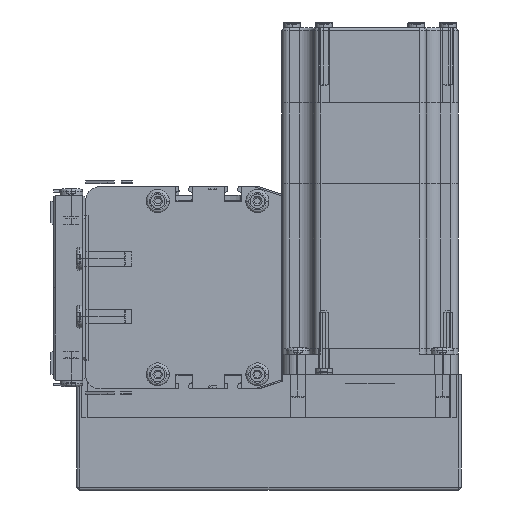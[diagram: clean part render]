
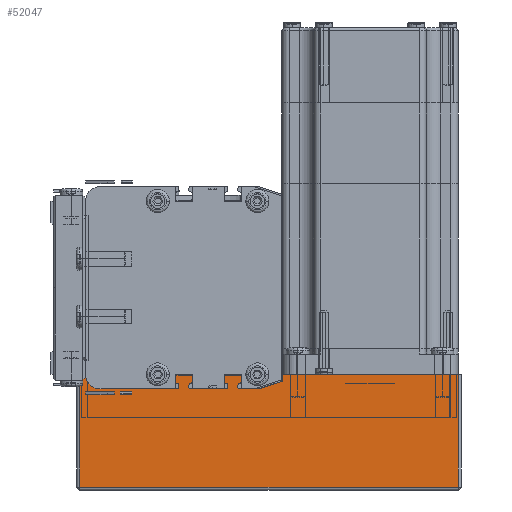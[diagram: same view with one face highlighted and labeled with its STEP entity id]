
A CAD part, left-side view. The second image highlights one B-rep face of the part: STEP entity #52047.
In plain terms, the highlighted planar face has unit normal (-1, 0, 0) as drawn and (0, 1, 0) by its records, which use the part's own axes.
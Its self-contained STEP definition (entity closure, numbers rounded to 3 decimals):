
#51836 = VERTEX_POINT ( 'NONE', #157138 ) ;
#52002 = EDGE_CURVE ( 'NONE', #52025, #51836, #157550, .T. ) ;
#52025 = VERTEX_POINT ( 'NONE', #157525 ) ;
#52047 = ADVANCED_FACE ( 'NONE', ( #157606 ), #157537, .F. ) ;
#52057 = ORIENTED_EDGE ( 'NONE', *, *, #52064, .T. ) ;
#52060 = EDGE_CURVE ( 'NONE', #52272, #52025, #157518, .T. ) ;
#52064 = EDGE_CURVE ( 'NONE', #52154, #52272, #157600, .T. ) ;
#52067 = EDGE_CURVE ( 'NONE', #51836, #52154, #157576, .T. ) ;
#52069 = ORIENTED_EDGE ( 'NONE', *, *, #52060, .T. ) ;
#52111 = EDGE_LOOP ( 'NONE', ( #52057, #52069, #52241, #52239 ) ) ;
#52154 = VERTEX_POINT ( 'NONE', #157738 ) ;
#52239 = ORIENTED_EDGE ( 'NONE', *, *, #52067, .T. ) ;
#52241 = ORIENTED_EDGE ( 'NONE', *, *, #52002, .T. ) ;
#52272 = VERTEX_POINT ( 'NONE', #157826 ) ;
#157138 = CARTESIAN_POINT ( 'NONE',  ( 1., 62., 0. ) ) ;
#157496 = DIRECTION ( 'NONE',  ( -1., 0., 0. ) ) ;
#157498 = CARTESIAN_POINT ( 'NONE',  ( 0., 62., 0. ) ) ;
#157518 = LINE ( 'NONE', #157599, #157589 ) ;
#157525 = CARTESIAN_POINT ( 'NONE',  ( 132., 62., 0. ) ) ;
#157535 = AXIS2_PLACEMENT_3D ( 'NONE', #157605, #157597, #157595 ) ;
#157537 = PLANE ( 'NONE',  #157535 ) ;
#157538 = VECTOR ( 'NONE', #157496, 1000. ) ;
#157550 = LINE ( 'NONE', #157498, #157538 ) ;
#157565 = DIRECTION ( 'NONE',  ( 0., 0., 1. ) ) ;
#157567 = VECTOR ( 'NONE', #157565, 1000. ) ;
#157569 = CARTESIAN_POINT ( 'NONE',  ( 1., 62., 40. ) ) ;
#157576 = LINE ( 'NONE', #157569, #157567 ) ;
#157579 = DIRECTION ( 'NONE',  ( 1., 0., 0. ) ) ;
#157580 = VECTOR ( 'NONE', #157579, 1000. ) ;
#157581 = CARTESIAN_POINT ( 'NONE',  ( 0., 62., 39. ) ) ;
#157587 = DIRECTION ( 'NONE',  ( 0., 0., -1. ) ) ;
#157589 = VECTOR ( 'NONE', #157587, 1000. ) ;
#157595 = DIRECTION ( 'NONE',  ( 0., 0., -1. ) ) ;
#157597 = DIRECTION ( 'NONE',  ( 0., -1., 0. ) ) ;
#157599 = CARTESIAN_POINT ( 'NONE',  ( 132., 62., 40. ) ) ;
#157600 = LINE ( 'NONE', #157581, #157580 ) ;
#157605 = CARTESIAN_POINT ( 'NONE',  ( 0., 62., 40. ) ) ;
#157606 = FACE_OUTER_BOUND ( 'NONE', #52111, .T. ) ;
#157738 = CARTESIAN_POINT ( 'NONE',  ( 1., 62., 39. ) ) ;
#157826 = CARTESIAN_POINT ( 'NONE',  ( 132., 62., 39. ) ) ;
